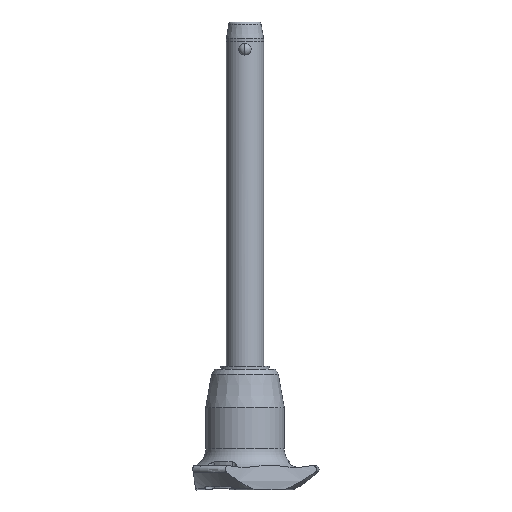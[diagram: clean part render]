
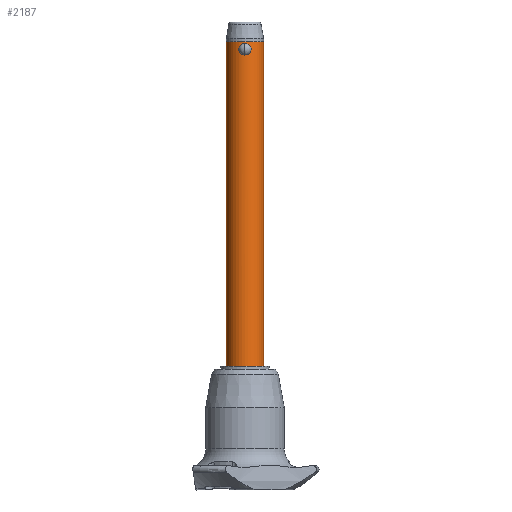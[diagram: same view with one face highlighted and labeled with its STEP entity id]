
A CAD part, front view. The second image highlights one B-rep face of the part: STEP entity #2187.
In plain terms, the highlighted cylindrical face has radius 6 mm (diameter 12 mm), a partial arc.
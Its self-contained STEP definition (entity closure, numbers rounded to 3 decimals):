
#41 = EDGE_CURVE ( 'NONE', #491, #1188, #469, .T. ) ;
#49 = B_SPLINE_CURVE_WITH_KNOTS ( 'NONE', 3,
 ( #2445, #1737, #831, #2607, #1554, #859, #876, #1318, #161, #1521, #1304, #2896, #604, #1764, #1544, #1099, #2172, #2217, #401, #1330, #2419, #192, #1777, #2228, #590, #178, #1276, #1073 ),
 .UNSPECIFIED., .F., .F.,
 ( 4, 2, 2, 2, 2, 2, 2, 2, 2, 2, 2, 2, 2, 4 ),
 ( 0.006, 0.007, 0.007, 0.008, 0.008, 0.008, 0.009, 0.009, 0.01, 0.011, 0.011, 0.011, 0.012, 0.012 ),
 .UNSPECIFIED. ) ;
#129 = CARTESIAN_POINT ( 'NONE',  ( -0.967, -5.923, 0.233 ) ) ;
#161 = CARTESIAN_POINT ( 'NONE',  ( 1.543, -5.799, 0.699 ) ) ;
#173 = DIRECTION ( 'NONE',  ( 0., 0., 1. ) ) ;
#178 = CARTESIAN_POINT ( 'NONE',  ( 0.252, -5.996, 3.697 ) ) ;
#188 = CARTESIAN_POINT ( 'NONE',  ( -1.278, -5.863, 0.437 ) ) ;
#192 = CARTESIAN_POINT ( 'NONE',  ( 0.966, -5.923, 3.476 ) ) ;
#297 = EDGE_CURVE ( 'NONE', #1645, #2656, #2074, .T. ) ;
#353 = CARTESIAN_POINT ( 'NONE',  ( 0., 0., -100. ) ) ;
#401 = CARTESIAN_POINT ( 'NONE',  ( 1.551, -5.799, 3.018 ) ) ;
#411 = CARTESIAN_POINT ( 'NONE',  ( -1.541, -5.799, 3.011 ) ) ;
#417 = ORIENTED_EDGE ( 'NONE', *, *, #297, .T. ) ;
#458 = VERTEX_POINT ( 'NONE', #2363 ) ;
#460 = CARTESIAN_POINT ( 'NONE',  ( -6., 0., -100. ) ) ;
#469 = B_SPLINE_CURVE_WITH_KNOTS ( 'NONE', 3,
 ( #2168, #1273, #2154, #1994, #1300, #1315, #856, #601, #1964, #1747, #411, #1050, #2198, #1980, #1537, #587, #1760, #843, #1775, #2864, #2212, #188, #2370, #129, #615, #1714, #1503, #2411 ),
 .UNSPECIFIED., .F., .F.,
 ( 4, 2, 2, 2, 2, 2, 2, 2, 2, 2, 2, 2, 2, 4 ),
 ( 0., 0., 0.001, 0.001, 0.002, 0.002, 0.002, 0.003, 0.003, 0.004, 0.005, 0.005, 0.005, 0.006 ),
 .UNSPECIFIED. ) ;
#491 = VERTEX_POINT ( 'NONE', #1548 ) ;
#496 = VECTOR ( 'NONE', #2086, 1000. ) ;
#558 = CARTESIAN_POINT ( 'NONE',  ( 6., 0., 4.24 ) ) ;
#587 = CARTESIAN_POINT ( 'NONE',  ( -1.955, -5.673, 1.731 ) ) ;
#590 = CARTESIAN_POINT ( 'NONE',  ( 0.498, -5.981, 3.652 ) ) ;
#601 = CARTESIAN_POINT ( 'NONE',  ( -1.177, -5.884, 3.347 ) ) ;
#602 = DIRECTION ( 'NONE',  ( 1., 0., 0. ) ) ;
#604 = CARTESIAN_POINT ( 'NONE',  ( 1.955, -5.673, 1.6 ) ) ;
#608 = CARTESIAN_POINT ( 'NONE',  ( 0., 0., -100. ) ) ;
#615 = CARTESIAN_POINT ( 'NONE',  ( -0.853, -5.94, 0.177 ) ) ;
#617 = EDGE_CURVE ( 'NONE', #1188, #491, #49, .T. ) ;
#771 = AXIS2_PLACEMENT_3D ( 'NONE', #2197, #173, #1979 ) ;
#822 = DIRECTION ( 'NONE',  ( 1., 0., 0. ) ) ;
#831 = CARTESIAN_POINT ( 'NONE',  ( 0.503, -5.983, 0.045 ) ) ;
#843 = CARTESIAN_POINT ( 'NONE',  ( -1.89, -5.695, 1.358 ) ) ;
#856 = CARTESIAN_POINT ( 'NONE',  ( -0.966, -5.923, 3.476 ) ) ;
#859 = CARTESIAN_POINT ( 'NONE',  ( 1.178, -5.884, 0.362 ) ) ;
#876 = CARTESIAN_POINT ( 'NONE',  ( 1.277, -5.863, 0.437 ) ) ;
#904 = EDGE_CURVE ( 'NONE', #458, #2656, #1478, .T. ) ;
#970 = EDGE_CURVE ( 'NONE', #2669, #458, #1378, .T. ) ;
#1005 = FACE_OUTER_BOUND ( 'NONE', #1033, .T. ) ;
#1010 = AXIS2_PLACEMENT_3D ( 'NONE', #608, #1045, #822 ) ;
#1019 = ORIENTED_EDGE ( 'NONE', *, *, #970, .F. ) ;
#1033 = EDGE_LOOP ( 'NONE', ( #1019, #1673, #417, #1406 ) ) ;
#1045 = DIRECTION ( 'NONE',  ( 0., 0., -1. ) ) ;
#1050 = CARTESIAN_POINT ( 'NONE',  ( -1.687, -5.759, 2.809 ) ) ;
#1073 = CARTESIAN_POINT ( 'NONE',  ( 0., -6., 3.708 ) ) ;
#1099 = CARTESIAN_POINT ( 'NONE',  ( 1.89, -5.695, 2.349 ) ) ;
#1132 = CARTESIAN_POINT ( 'NONE',  ( -6., 0., -100. ) ) ;
#1188 = VERTEX_POINT ( 'NONE', #1310 ) ;
#1214 = EDGE_CURVE ( 'NONE', #1645, #2669, #2277, .T. ) ;
#1273 = CARTESIAN_POINT ( 'NONE',  ( -0.127, -6., 3.708 ) ) ;
#1276 = CARTESIAN_POINT ( 'NONE',  ( 0.127, -6., 3.708 ) ) ;
#1300 = CARTESIAN_POINT ( 'NONE',  ( -0.62, -5.969, 3.619 ) ) ;
#1304 = CARTESIAN_POINT ( 'NONE',  ( 1.749, -5.74, 1.007 ) ) ;
#1310 = CARTESIAN_POINT ( 'NONE',  ( 0., -6., 0. ) ) ;
#1315 = CARTESIAN_POINT ( 'NONE',  ( -0.854, -5.94, 3.53 ) ) ;
#1318 = CARTESIAN_POINT ( 'NONE',  ( 1.459, -5.821, 0.604 ) ) ;
#1330 = CARTESIAN_POINT ( 'NONE',  ( 1.279, -5.863, 3.27 ) ) ;
#1378 = LINE ( 'NONE', #1132, #2895 ) ;
#1406 = ORIENTED_EDGE ( 'NONE', *, *, #904, .F. ) ;
#1448 = ORIENTED_EDGE ( 'NONE', *, *, #41, .F. ) ;
#1478 = CIRCLE ( 'NONE', #771, 6. ) ;
#1503 = CARTESIAN_POINT ( 'NONE',  ( -0.25, -6., 0. ) ) ;
#1521 = CARTESIAN_POINT ( 'NONE',  ( 1.687, -5.758, 0.899 ) ) ;
#1537 = CARTESIAN_POINT ( 'NONE',  ( -1.955, -5.673, 2.107 ) ) ;
#1544 = CARTESIAN_POINT ( 'NONE',  ( 1.942, -5.677, 2.103 ) ) ;
#1548 = CARTESIAN_POINT ( 'NONE',  ( 0., -6., 3.708 ) ) ;
#1554 = CARTESIAN_POINT ( 'NONE',  ( 0.966, -5.923, 0.232 ) ) ;
#1645 = VERTEX_POINT ( 'NONE', #2724 ) ;
#1673 = ORIENTED_EDGE ( 'NONE', *, *, #1214, .F. ) ;
#1714 = CARTESIAN_POINT ( 'NONE',  ( -0.504, -5.983, 0.045 ) ) ;
#1734 = CYLINDRICAL_SURFACE ( 'NONE', #2183, 6. ) ;
#1737 = CARTESIAN_POINT ( 'NONE',  ( 0.25, -6., 0. ) ) ;
#1747 = CARTESIAN_POINT ( 'NONE',  ( -1.46, -5.821, 3.103 ) ) ;
#1760 = CARTESIAN_POINT ( 'NONE',  ( -1.942, -5.677, 1.604 ) ) ;
#1764 = CARTESIAN_POINT ( 'NONE',  ( 1.955, -5.673, 1.979 ) ) ;
#1775 = CARTESIAN_POINT ( 'NONE',  ( -1.852, -5.707, 1.239 ) ) ;
#1777 = CARTESIAN_POINT ( 'NONE',  ( 0.855, -5.94, 3.53 ) ) ;
#1876 = EDGE_LOOP ( 'NONE', ( #1448, #2358 ) ) ;
#1948 = DIRECTION ( 'NONE',  ( 0., 0., 1. ) ) ;
#1964 = CARTESIAN_POINT ( 'NONE',  ( -1.278, -5.863, 3.271 ) ) ;
#1979 = DIRECTION ( 'NONE',  ( 1., 0., 0. ) ) ;
#1980 = CARTESIAN_POINT ( 'NONE',  ( -1.9, -5.692, 2.359 ) ) ;
#1994 = CARTESIAN_POINT ( 'NONE',  ( -0.498, -5.981, 3.652 ) ) ;
#2074 = LINE ( 'NONE', #2303, #496 ) ;
#2086 = DIRECTION ( 'NONE',  ( 0., 0., 1. ) ) ;
#2154 = CARTESIAN_POINT ( 'NONE',  ( -0.252, -5.996, 3.697 ) ) ;
#2168 = CARTESIAN_POINT ( 'NONE',  ( 0., -6., 3.708 ) ) ;
#2172 = CARTESIAN_POINT ( 'NONE',  ( 1.851, -5.708, 2.47 ) ) ;
#2183 = AXIS2_PLACEMENT_3D ( 'NONE', #353, #1948, #602 ) ;
#2187 = ADVANCED_FACE ( 'NONE', ( #1005, #2372 ), #1734, .T. ) ;
#2197 = CARTESIAN_POINT ( 'NONE',  ( 0., 0., 4.24 ) ) ;
#2198 = CARTESIAN_POINT ( 'NONE',  ( -1.75, -5.74, 2.7 ) ) ;
#2212 = CARTESIAN_POINT ( 'NONE',  ( -1.551, -5.799, 0.69 ) ) ;
#2217 = CARTESIAN_POINT ( 'NONE',  ( 1.7, -5.755, 2.812 ) ) ;
#2228 = CARTESIAN_POINT ( 'NONE',  ( 0.62, -5.969, 3.619 ) ) ;
#2277 = CIRCLE ( 'NONE', #1010, 6. ) ;
#2303 = CARTESIAN_POINT ( 'NONE',  ( 6., 0., -100. ) ) ;
#2358 = ORIENTED_EDGE ( 'NONE', *, *, #617, .F. ) ;
#2363 = CARTESIAN_POINT ( 'NONE',  ( -6., 0., 4.24 ) ) ;
#2370 = CARTESIAN_POINT ( 'NONE',  ( -1.179, -5.884, 0.363 ) ) ;
#2372 = FACE_BOUND ( 'NONE', #1876, .T. ) ;
#2411 = CARTESIAN_POINT ( 'NONE',  ( 0., -6., 0. ) ) ;
#2419 = CARTESIAN_POINT ( 'NONE',  ( 1.178, -5.884, 3.346 ) ) ;
#2445 = CARTESIAN_POINT ( 'NONE',  ( 0., -6., 0. ) ) ;
#2607 = CARTESIAN_POINT ( 'NONE',  ( 0.853, -5.94, 0.177 ) ) ;
#2656 = VERTEX_POINT ( 'NONE', #558 ) ;
#2669 = VERTEX_POINT ( 'NONE', #460 ) ;
#2707 = DIRECTION ( 'NONE',  ( 0., 0., 1. ) ) ;
#2724 = CARTESIAN_POINT ( 'NONE',  ( 6., 0., -100. ) ) ;
#2864 = CARTESIAN_POINT ( 'NONE',  ( -1.7, -5.755, 0.895 ) ) ;
#2895 = VECTOR ( 'NONE', #2707, 1000. ) ;
#2896 = CARTESIAN_POINT ( 'NONE',  ( 1.901, -5.692, 1.35 ) ) ;
